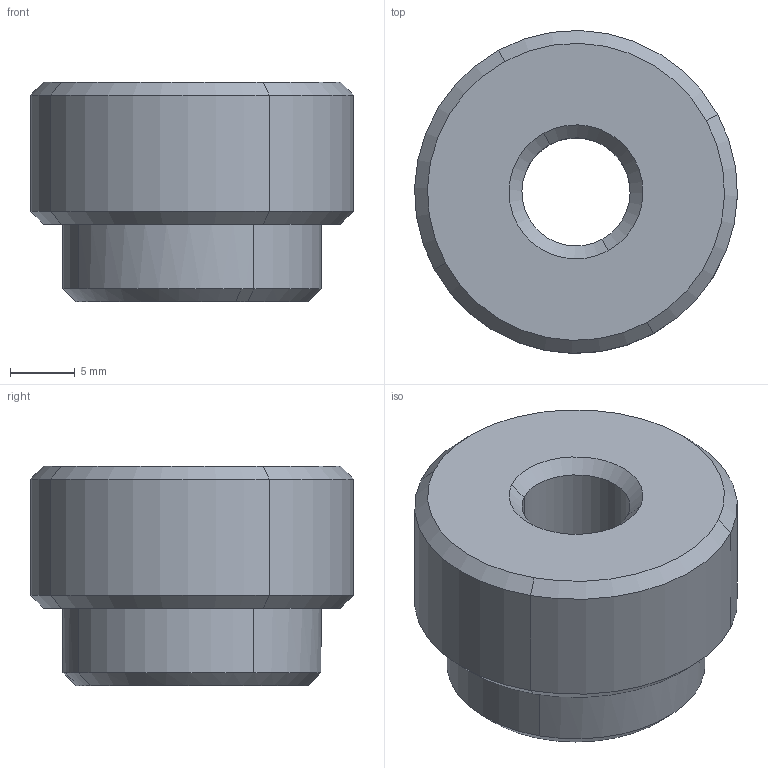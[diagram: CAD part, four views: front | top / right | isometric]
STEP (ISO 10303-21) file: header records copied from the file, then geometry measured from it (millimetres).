
FILE_DESCRIPTION(('CATIA V5 STEP Exchange'),'2;1');
FILE_NAME('C:\Users\nobody\Desktop\SLT0010269_B.stp','2024-03-05T02:07:22+00:00',('none'),('none'),'CATIA Version 5 Release 20 GA (IN-10)','CATIA V5 STEP AP203 Edition 2','none');
FILE_SCHEMA(('AP203_CONFIGURATION_CONTROLLED_3D_DESIGN_OF_MECHANICAL_PARTS_AND_ASSEMBLIES_MIM_LF { 1 0 10303 403 2 1 2}'));
Length unit declared in the file: millimetre
Products named in the file (1): SLT0010269
Bounding box: 24.99 x 24.99 x 17 mm (x, y, z)
Volume: 6212.6 mm3; surface area: 2398.9 mm2
Topology: 1 solids, 1 shells, 29 faces, 64 edges, 38 vertices
Faces by surface type: cone 16, cylinder 10, plane 3
Entity records: 917 total; most frequent: CARTESIAN_POINT 135, ORIENTED_EDGE 128, DIRECTION 121, AXIS2_PLACEMENT_3D 68, EDGE_CURVE 64, CIRCLE 38, VERTEX_POINT 38, EDGE_LOOP 32
